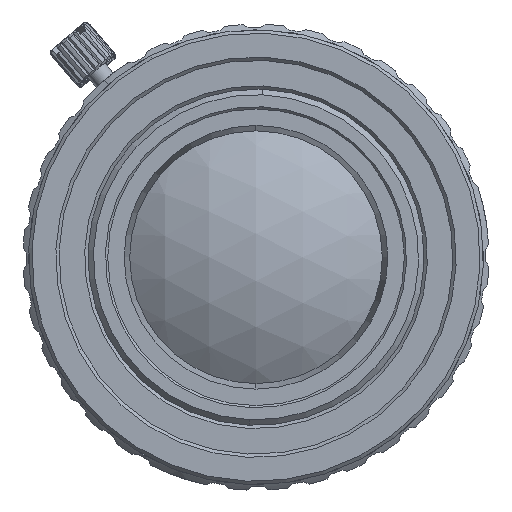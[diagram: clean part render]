
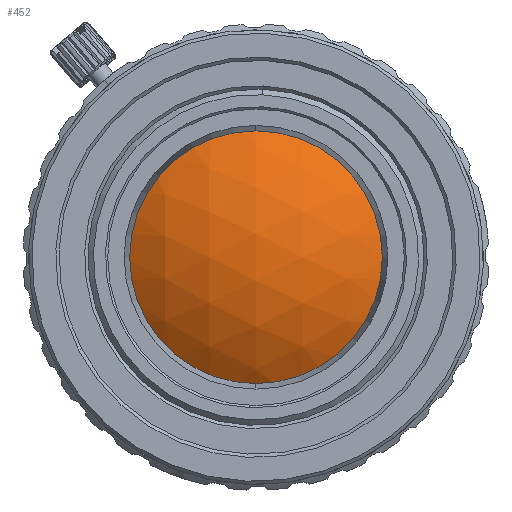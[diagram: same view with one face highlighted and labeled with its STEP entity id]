
A CAD part, left-side view. The second image highlights one B-rep face of the part: STEP entity #452.
In plain terms, the highlighted spherical face has radius 19.862 mm.
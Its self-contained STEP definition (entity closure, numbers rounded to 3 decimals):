
#337=CARTESIAN_POINT('',(-36.85,34.728,-125.207));
#338=DIRECTION('',(1.,0.,0.));
#339=DIRECTION('',(0.,0.,1.));
#340=AXIS2_PLACEMENT_3D('',#337,#338,#339);
#342=CARTESIAN_POINT('',(-36.85,34.728,-125.207));
#343=DIRECTION('',(1.,0.,0.));
#344=DIRECTION('',(0.,0.,-1.));
#345=AXIS2_PLACEMENT_3D('',#342,#343,#344);
#367=CARTESIAN_POINT('',(-36.85,34.728,-137.207));
#368=CARTESIAN_POINT('',(-36.85,34.728,-113.207));
#369=VERTEX_POINT('',#367);
#370=VERTEX_POINT('',#368);
#442=CARTESIAN_POINT('',(-21.023,34.728,-125.207));
#443=DIRECTION('',(0.,1.,0.));
#444=DIRECTION('',(-0.792,0.,0.61));
#445=AXIS2_PLACEMENT_3D('',#442,#443,#444);
#446=SPHERICAL_SURFACE('',#445,19.862);
#448=ORIENTED_EDGE('',*,*,#447,.T.);
#449=ORIENTED_EDGE('',*,*,#432,.T.);
#450=EDGE_LOOP('',(#448,#449));
#451=FACE_OUTER_BOUND('',#450,.F.);
#452=ADVANCED_FACE('',(#451),#446,.T.);
#341=CIRCLE('',#340,12.);
#346=CIRCLE('',#345,12.);
#432=EDGE_CURVE('',#369,#370,#346,.T.);
#447=EDGE_CURVE('',#370,#369,#341,.T.);
